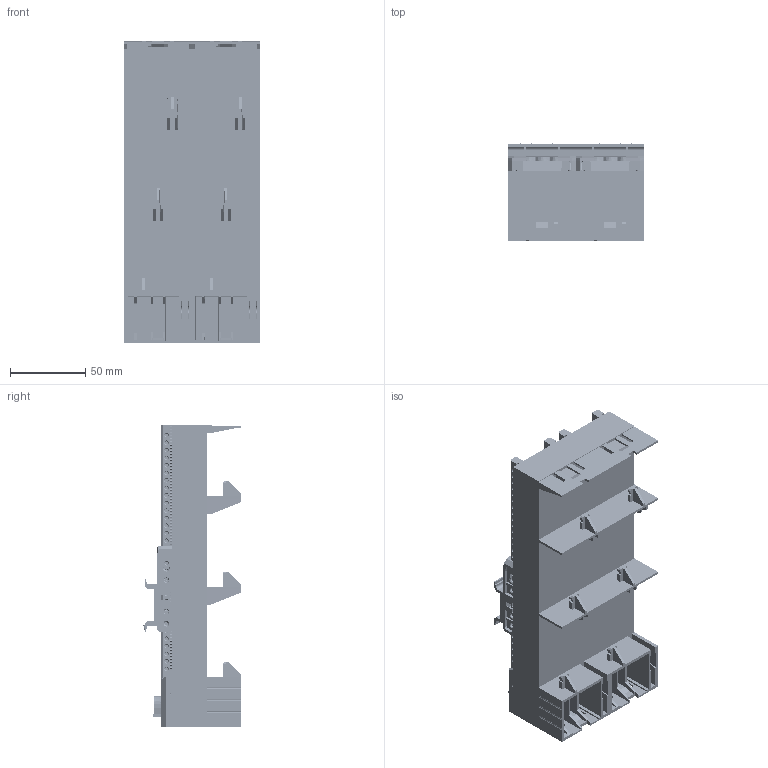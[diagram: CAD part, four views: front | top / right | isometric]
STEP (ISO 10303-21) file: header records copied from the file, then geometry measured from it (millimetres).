
FILE_DESCRIPTION (( 'STEP AP203' ), '1' );
FILE_NAME ('55358.STEP', '2021-08-17T01:24:31', ( '' ), ( '' ), 'SwSTEP 2.0', 'SolidWorks 2017', '' );
FILE_SCHEMA (( 'CONFIG_CONTROL_DESIGN' ));
Length unit declared in the file: millimetre
Products named in the file (2): 55358
Bounding box: 90 x 64.5 x 200.7 mm (x, y, z)
Volume: 516971.9 mm3; surface area: 146234 mm2
Topology: 4 solids, 20 shells, 3578 faces, 10054 edges, 6772 vertices
Faces by surface type: plane 2172, cylinder 1062, cone 312, bspline 32
Full cylindrical faces by diameter (mm): 1.988 x260, 2.779 x8, 2.882 x12, 2.982 x260, 4.864 x8, 5.169 x4
Entity records: 210263 total; most frequent: CARTESIAN_POINT 127732, ORIENTED_EDGE 17868, DIRECTION 13916, EDGE_CURVE 8934, VERTEX_POINT 6476, VECTOR 5048, LINE 5048, EDGE_LOOP 4814
